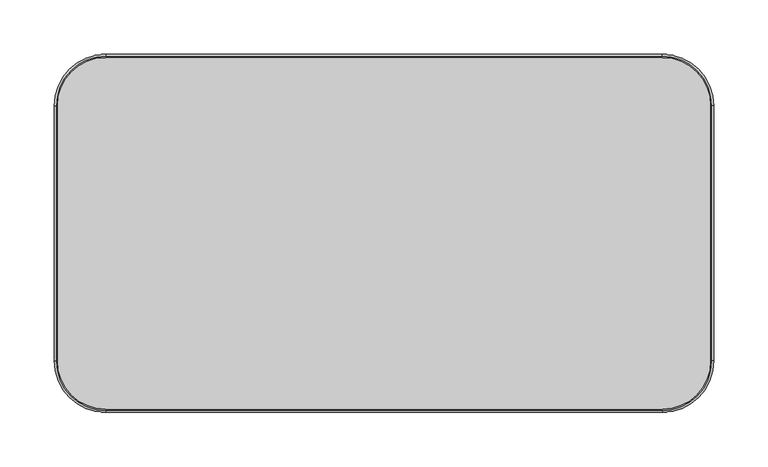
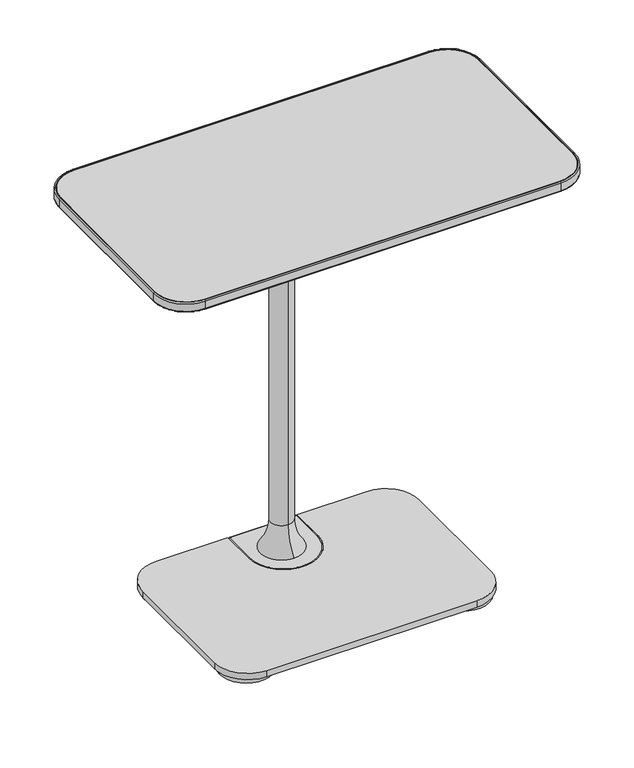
"""IFC4 building model written with IfcOpenShell, lengths in millimetres: furniture geometry, Coalesse_AM_Table_Occasional_Lagunitas_Personal : 13D x 24W."""

import ifcopenshell
import ifcopenshell.guid

model = None  # the IFC model being written
_history = None  # IfcOwnerHistory: only IFC2X3 demands one
_inside = {}  # id of a spatial element -> (the spatial element, [elements in it])
_under = {}  # id of a project, library or spatial element -> (it, [spatial elements below it])
_declared = {}  # id of a project -> (the project, [libraries it declares])
_typed = {}  # id of a type object -> (the type object, [elements of that type])
_made_of = {}  # id of a material, layer set ... -> (it, [elements and type objects made of it])


def new_model(schema):
    """Start an empty IFC model of exactly this schema.

    Asked for "IFC4X3", IfcOpenShell would pick the latest addendum, in which some entities
    have other attributes; the version numbers below select the first issue.
    IFC2X3 requires an IfcOwnerHistory on every rooted entity: one is made here for all.
    """
    global model, _history
    if schema == "IFC4X3":
        model = ifcopenshell.file(schema_version=(4, 3, 0, 0))
    else:
        model = ifcopenshell.file(schema=schema)
    _inside.clear()
    _under.clear()
    _declared.clear()
    _typed.clear()
    _made_of.clear()
    _history = None
    if model.schema == "IFC2X3":
        org = make("IfcOrganization", Name="unknown")
        user = make(
            "IfcPersonAndOrganization",
            ThePerson=make("IfcPerson", FamilyName="unknown"),
            TheOrganization=org,
        )
        app = make(
            "IfcApplication",
            ApplicationDeveloper=org,
            Version="unknown",
            ApplicationFullName="unknown",
            ApplicationIdentifier="unknown",
        )
        _history = make(
            "IfcOwnerHistory",
            OwningUser=user,
            OwningApplication=app,
            ChangeAction="ADDED",
            CreationDate=0,
        )
    return model


def make(cls, **values):
    """One entity of the class cls with the attributes given. An attribute that is None is left unset."""
    return model.create_entity(
        cls, **{name: value for name, value in values.items() if value is not None}
    )


def rooted(cls, **values):
    """An entity with a GlobalId (a new one), such as an element, a storey or a relation."""
    return make(cls, GlobalId=ifcopenshell.guid.new(), OwnerHistory=_history, **values)


def si_unit(unit_type, name, prefix=None):
    """IfcSIUnit, for example si_unit("LENGTHUNIT", "METRE", prefix="MILLI")."""
    return make("IfcSIUnit", UnitType=unit_type, Prefix=prefix, Name=name)


def assignment(units):
    """IfcUnitAssignment: the units of a project."""
    return None if units is None else make("IfcUnitAssignment", Units=units)


def point(xyz):
    """IfcCartesianPoint."""
    return None if xyz is None else make("IfcCartesianPoint", Coordinates=xyz)


def direction(xyz):
    """IfcDirection."""
    return None if xyz is None else make("IfcDirection", DirectionRatios=xyz)


def frame(location, z_axis=None, x_axis=None):
    """IfcAxis2Placement3D, a coordinate frame: its origin and axes. An axis left out is left unset."""
    return make(
        "IfcAxis2Placement3D",
        Location=point(location),
        Axis=direction(z_axis),
        RefDirection=direction(x_axis),
    )


def frame_2d(location, x_axis=None):
    """IfcAxis2Placement2D, a coordinate frame in the plane: its origin and x axis."""
    return make(
        "IfcAxis2Placement2D", Location=point(location), RefDirection=direction(x_axis)
    )


def origin():
    """The frame at (0, 0, 0) with its axes left unset."""
    return frame((0.0, 0.0, 0.0))


def origin_with_axes():
    """The frame at (0, 0, 0) with the z axis (0, 0, 1) and the x axis (1, 0, 0) written out."""
    return frame((0.0, 0.0, 0.0), z_axis=(0.0, 0.0, 1.0), x_axis=(1.0, 0.0, 0.0))


def place(relative_to, where):
    """IfcLocalPlacement: puts the frame where relative to a parent placement (None: the world)."""
    return make(
        "IfcLocalPlacement", PlacementRelTo=relative_to, RelativePlacement=where
    )


def context(
    kind, dimensions, precision=None, world=None, true_north=None, identifier=None
):
    """IfcGeometricRepresentationContext, for example the 3D "Model" context."""
    return make(
        "IfcGeometricRepresentationContext",
        ContextIdentifier=identifier,
        ContextType=kind,
        CoordinateSpaceDimension=dimensions,
        Precision=precision,
        WorldCoordinateSystem=world,
        TrueNorth=true_north,
    )


def project(units=None, contexts=None):
    """IfcProject with its units and contexts."""
    return rooted(
        "IfcProject",
        Name="project",
        RepresentationContexts=contexts,
        UnitsInContext=assignment(units),
    )


def spatial(cls, under=None, at=None, **own):
    """A site, building, storey or space (cls), placed at a placement, below another one or the project."""
    s = rooted(cls, ObjectPlacement=at, **own)
    if under is not None:
        _under.setdefault(under.id(), (under, []))[1].append(s)
    return s


def polyline(points):
    """IfcPolyline through the points."""
    return make("IfcPolyline", Points=[point(p) for p in points])


def circle_curve(where, radius):
    """IfcCircle in the frame where."""
    return make("IfcCircle", Position=where, Radius=radius)


def ellipse_curve(where, semi_axis1, semi_axis2):
    """IfcEllipse in the frame where."""
    return make(
        "IfcEllipse", Position=where, SemiAxis1=semi_axis1, SemiAxis2=semi_axis2
    )


def trimmed(basis, trim1, trim2, sense, master):
    """IfcTrimmedCurve: the piece of a basis curve between two trims."""
    return make(
        "IfcTrimmedCurve",
        BasisCurve=basis,
        Trim1=trim1,
        Trim2=trim2,
        SenseAgreement=sense,
        MasterRepresentation=master,
    )


def segment(curve, same_sense, transition):
    """IfcCompositeCurveSegment."""
    return make(
        "IfcCompositeCurveSegment",
        Transition=transition,
        SameSense=same_sense,
        ParentCurve=curve,
    )


def composite_curve(segments, self_intersect=None):
    """IfcCompositeCurve: segments joined end to end."""
    return make("IfcCompositeCurve", Segments=segments, SelfIntersect=self_intersect)


def outline(outer, holes=None, kind="AREA"):
    """IfcArbitraryClosedProfileDef: a profile drawn as a closed curve; with holes, ...WithVoids."""
    if holes is None:
        return make("IfcArbitraryClosedProfileDef", ProfileType=kind, OuterCurve=outer)
    return make(
        "IfcArbitraryProfileDefWithVoids",
        ProfileType=kind,
        OuterCurve=outer,
        InnerCurves=holes,
    )


def extrude(swept, where, along, depth):
    """IfcExtrudedAreaSolid: the profile swept, set in the frame where, extruded along a direction by depth."""
    return make(
        "IfcExtrudedAreaSolid",
        SweptArea=swept,
        Position=where,
        ExtrudedDirection=direction(along),
        Depth=depth,
    )


def shape(context_of_items, identifier, shape_type, items):
    """IfcShapeRepresentation: the items that make up one representation, for example the "Body"."""
    return make(
        "IfcShapeRepresentation",
        ContextOfItems=context_of_items,
        RepresentationIdentifier=identifier,
        RepresentationType=shape_type,
        Items=items,
    )


def source(mapping_origin, context_of_items, identifier, shape_type, items):
    """IfcRepresentationMap: a shape defined once, which mapped items show again and again."""
    return make(
        "IfcRepresentationMap",
        MappingOrigin=mapping_origin,
        MappedRepresentation=shape(context_of_items, identifier, shape_type, items),
    )


def transform(
    local_origin,
    x_axis=None,
    y_axis=None,
    z_axis=None,
    scale=None,
    scale2=None,
    scale3=None,
    uniform=True,
):
    """IfcCartesianTransformationOperator3D, or its non-uniform kind. x_axis, y_axis, z_axis: its Axis1, 2, 3."""
    if uniform:
        return make(
            "IfcCartesianTransformationOperator3D",
            Axis1=direction(x_axis),
            Axis2=direction(y_axis),
            LocalOrigin=point(local_origin),
            Scale=scale,
            Axis3=direction(z_axis),
        )
    return make(
        "IfcCartesianTransformationOperator3DnonUniform",
        Axis1=direction(x_axis),
        Axis2=direction(y_axis),
        LocalOrigin=point(local_origin),
        Scale=scale,
        Axis3=direction(z_axis),
        Scale2=scale2,
        Scale3=scale3,
    )


def mapped(mapping_source, mapping_target):
    """IfcMappedItem: shows the shape of a source again, moved by a transform."""
    return make(
        "IfcMappedItem", MappingSource=mapping_source, MappingTarget=mapping_target
    )


def made_of(thing, what):
    """Note that an element or type object is made of a material, layer set ...; save() writes the relation."""
    if what is not None:
        _made_of.setdefault(what.id(), (what, []))[1].append(thing)
    return thing


def element(
    cls,
    number,
    at=None,
    inside=None,
    cuts=None,
    type_object=None,
    material=None,
    context=None,
    identifier="Body",
    shape_type=None,
    held_by="IfcProductDefinitionShape",
    body=None,
    shapes=None,
    **own,
):
    """One element of the class cls, such as IfcWall. Its Tag is "e" and its number.

    at: its placement. inside: the storey or other place that contains it. cuts: it is an
    opening in that element (IfcRelVoidsElement). A single representation is given by context,
    identifier, shape_type and body (its items); several are given by shapes. held_by: the class
    of the entity that holds the representations. save() writes the other relations.
    """
    e = rooted(cls, Tag="e%d" % number, ObjectPlacement=at, **own)
    if body is not None:
        shapes = [shape(context, identifier, shape_type, body)]
    if shapes is not None:
        e.Representation = make(held_by, Representations=shapes)
    if inside is not None:
        _inside.setdefault(inside.id(), (inside, []))[1].append(e)
    if cuts is not None:
        rooted(
            "IfcRelVoidsElement", RelatingBuildingElement=cuts, RelatedOpeningElement=e
        )
    if type_object is not None:
        _typed.setdefault(type_object.id(), (type_object, []))[1].append(e)
    return made_of(e, material)


def aggregate(whole, parts):
    """IfcRelAggregates: a whole, such as a stair, and the parts it consists of."""
    return rooted("IfcRelAggregates", RelatingObject=whole, RelatedObjects=parts)


def save(model, path):
    """Write the relations noted so far, then the file.

    IfcRelAggregates (storeys below a building ...), IfcRelContainedInSpatialStructure (elements
    in a storey), IfcRelDefinesByType, IfcRelAssociatesMaterial and IfcRelDeclares: one each for
    every whole, place, type object, material and project.
    """
    for whole, parts in _under.values():
        aggregate(whole, parts)
    for where, things in _inside.values():
        rooted(
            "IfcRelContainedInSpatialStructure",
            RelatedElements=things,
            RelatingStructure=where,
        )
    for kind, things in _typed.values():
        rooted("IfcRelDefinesByType", RelatedObjects=things, RelatingType=kind)
    for what, things in _made_of.values():
        rooted("IfcRelAssociatesMaterial", RelatedObjects=things, RelatingMaterial=what)
    for by, libraries in _declared.values():
        rooted("IfcRelDeclares", RelatingContext=by, RelatedDefinitions=libraries)
    model.write(path)


def plane_surface(at):
    """IfcPlane: the flat surface through the origin of the frame at, square to its z axis."""
    return make("IfcPlane", Position=at)


def cylinder_surface(at, radius):
    """IfcCylindricalSurface: all points at the distance radius from the z axis of the frame at."""
    return make("IfcCylindricalSurface", Position=at, Radius=radius)


def revolved_surface(curve, axis_point, axis_direction):
    """IfcSurfaceOfRevolution: the curve turned about the line through axis_point along axis_direction."""
    return make(
        "IfcSurfaceOfRevolution",
        SweptCurve=make("IfcArbitraryOpenProfileDef", ProfileType="CURVE", Curve=curve),
        AxisPosition=make("IfcAxis1Placement", Location=point(axis_point), Axis=direction(axis_direction)),
    )


def advanced_brep(points, edges, surfaces, faces):
    """IfcAdvancedBrep: a solid bounded by faces that lie on surfaces and meet in shared edges.

    An edge is (start, end): straight between two places in points (the first is 0);
    or (start, end, curve); or (start, end, curve, False) where it runs against its curve.
    A face is (place in surfaces, loops), or (place, loops, False) where it looks against
    its surface's normal. A loop lists edges by number (the first is 1), with a minus sign
    where the edge is run from its end to its start. The first loop is the outer one.
    """
    corners = [point(p) for p in points]
    vertices = [make("IfcVertexPoint", VertexGeometry=c) for c in corners]
    made = []
    for start, end, *more in edges:
        made.append(
            make(
                "IfcEdgeCurve",
                EdgeStart=vertices[start],
                EdgeEnd=vertices[end],
                EdgeGeometry=more[0] if more else make("IfcPolyline", Points=[corners[start], corners[end]]),
                SameSense=more[1] if len(more) > 1 else True,
            )
        )
    hull = []
    for where, loops, *sense in faces:
        bounds = []
        for j, loop in enumerate(loops):
            ring = [make("IfcOrientedEdge", EdgeElement=made[abs(k) - 1], Orientation=k > 0) for k in loop]
            bounds.append(
                make(
                    "IfcFaceOuterBound" if j == 0 else "IfcFaceBound",
                    Bound=make("IfcEdgeLoop", EdgeList=ring),
                    Orientation=True,
                )
            )
        hull.append(make("IfcAdvancedFace", Bounds=bounds, FaceSurface=surfaces[where], SameSense=sense[0] if sense else True))
    return make("IfcAdvancedBrep", Outer=make("IfcClosedShell", CfsFaces=hull))


def furniture_d2e51079(model_context):
    return source(origin(), model_context, "Body", "SolidModel", [
        advanced_brep(
        [(-48.435586, 86.197599, 15.3754683), (51.6565428, 86.197599, 15.3754683), (50.1397432, 86.197599, 16.8922679), (-46.9187865, 86.197599, 16.8922679), (-48.435586, 86.197599, 7.5129953), (51.6565428, 86.197599, 7.5129953), (-46.9187865, 135.1065525, 16.8922679), (-48.435586, 135.1065525, 15.3754683), (-48.435586, 135.1065525, 7.5129953), (-44.9985216, 138.543617, 15.3754683), (-44.9985216, 137.0268174, 16.8922679), (48.2194784, 137.0268174, 16.8922679), (48.2194784, 138.543617, 15.3754683), (48.2194784, 138.543617, 7.5129953), (-44.9985216, 138.543617, 7.5129953), (51.6565428, 135.1065525, 15.3754683), (50.1397432, 135.1065525, 16.8922679), (51.6565428, 135.1065525, 7.5129953)],
        [
            (0, 1, circle_curve(frame((1.6104784, 86.197599, 15.3754683), z_axis=(0.0, 0.0, 1.0), x_axis=(1.0, 0.0, 0.0)), 50.0460644)),
            (1, 2, circle_curve(frame((50.1397432, 86.197599, 15.3754683), z_axis=(0.0, -1.0, 0.0), x_axis=(1.0, 0.0, 0.0)), 1.5167996)),
            (2, 3, circle_curve(frame((1.6104784, 86.197599, 16.8922679), z_axis=(0.0, 0.0, -1.0), x_axis=(1.0, 0.0, 0.0)), 48.5292649)),
            (3, 0, circle_curve(frame((-46.9187865, 86.197599, 15.3754683), z_axis=(0.0, -1.0, 0.0), x_axis=(-1.0, 0.0, 0.0)), 1.5167996)),
            (0, 4),
            (4, 5, circle_curve(frame((1.6104784, 86.197599, 7.5129953), z_axis=(0.0, 0.0, 1.0), x_axis=(1.0, 0.0, 0.0)), 50.0460644)),
            (5, 1),
            (3, 6),
            (6, 7, circle_curve(frame((-46.9187865, 135.1065525, 15.3754683), z_axis=(0.0, -1.0, 0.0), x_axis=(-1.0, 0.0, 0.0)), 1.5167996)),
            (7, 0),
            (7, 8),
            (8, 4),
            (9, 10, circle_curve(frame((-44.9985216, 137.0268174, 15.3754683), z_axis=(1.0, 0.0, 0.0), x_axis=(0.0, 1.0, 0.0)), 1.5167996)),
            (10, 11),
            (11, 12, circle_curve(frame((48.2194784, 137.0268174, 15.3754683), z_axis=(-1.0, 0.0, 0.0), x_axis=(0.0, 1.0, 0.0)), 1.5167996)),
            (12, 9),
            (12, 13),
            (13, 14),
            (14, 9),
            (1, 15),
            (15, 16, circle_curve(frame((50.1397432, 135.1065525, 15.3754683), z_axis=(0.0, -1.0, 0.0), x_axis=(1.0, 0.0, 0.0)), 1.5167996)),
            (16, 2),
            (5, 17),
            (17, 15),
            (6, 10, circle_curve(frame((-44.9985216, 135.1065525, 16.8922679), z_axis=(0.0, 0.0, -1.0), x_axis=(-1.0, 0.0, 0.0)), 1.9202649)),
            (9, 7, circle_curve(frame((-44.9985216, 135.1065525, 15.3754683), z_axis=(0.0, 0.0, 1.0), x_axis=(-1.0, 0.0, 0.0)), 3.4370644)),
            (14, 8, circle_curve(frame((-44.9985216, 135.1065525, 7.5129953), z_axis=(0.0, 0.0, 1.0), x_axis=(-1.0, 0.0, 0.0)), 3.4370644)),
            (16, 11, circle_curve(frame((48.2194784, 135.1065525, 16.8922679), z_axis=(0.0, 0.0, 1.0), x_axis=(0.0, 1.0, 0.0)), 1.9202649)),
            (15, 12, circle_curve(frame((48.2194784, 135.1065525, 15.3754683), z_axis=(0.0, 0.0, 1.0), x_axis=(0.0, 1.0, 0.0)), 3.4370644)),
            (17, 13, circle_curve(frame((48.2194784, 135.1065525, 7.5129953), z_axis=(0.0, 0.0, 1.0), x_axis=(0.0, 1.0, 0.0)), 3.4370644)),
        ],
        [
            revolved_surface(trimmed(ellipse_curve(frame((50.1397432, 86.197599, 15.3754683), z_axis=(0.0, 1.0, 0.0), x_axis=(1.0, 0.0, 0.0)), 1.5167996, 1.5167996), [point((50.1397432, 86.197599, 16.8922679))], [point((51.6565428, 86.197599, 15.3754683))], True, "CARTESIAN"), (1.6104784, 86.197599, 16.8922679), (0.0, 0.0, -1.0)),
            cylinder_surface(frame((1.6104784, 86.197599, 16.8922679), z_axis=(0.0, 0.0, -1.0), x_axis=(1.0, 0.0, 0.0)), 50.0460644),
            cylinder_surface(frame((-46.9187865, 86.197599, 15.3754683), z_axis=(0.0, -1.0, 0.0), x_axis=(-1.0, 0.0, 0.0)), 1.5167996),
            plane_surface(frame((-48.435586, 86.197599, 15.3754683), z_axis=(-1.0, 0.0, 0.0), x_axis=(0.0, 1.0, 0.0))),
            cylinder_surface(frame((-44.9985216, 137.0268174, 15.3754683), z_axis=(-1.0, 0.0, 0.0), x_axis=(0.0, 1.0, 0.0)), 1.5167996),
            plane_surface(frame((-44.9985216, 138.543617, 15.3754683), z_axis=(0.0, 1.0, 0.0), x_axis=(1.0, 0.0, 0.0))),
            cylinder_surface(frame((50.1397432, 135.1065525, 15.3754683), z_axis=(0.0, 1.0, 0.0), x_axis=(1.0, 0.0, 0.0)), 1.5167996),
            plane_surface(frame((51.6565428, 135.1065525, 15.3754683), z_axis=(1.0, 0.0, 0.0), x_axis=(0.0, -1.0, 0.0))),
            revolved_surface(trimmed(ellipse_curve(frame((-46.9187865, 135.1065525, 15.3754683), z_axis=(0.0, -1.0, 0.0), x_axis=(-1.0, 0.0, 0.0)), 1.5167996, 1.5167996), [point((-46.9187865, 135.1065525, 16.8922679))], [point((-48.435586, 135.1065525, 15.3754683))], True, "CARTESIAN"), (-44.9985216, 135.1065525, 16.8922679), (0.0, 0.0, -1.0)),
            cylinder_surface(frame((-44.9985216, 135.1065525, 16.8922679), z_axis=(0.0, 0.0, -1.0), x_axis=(-1.0, 0.0, 0.0)), 3.4370644),
            plane_surface(frame((48.2194784, 135.1065525, 16.8922679), z_axis=(0.0, 0.0, 1.0), x_axis=(0.0, 1.0, 0.0))),
            revolved_surface(trimmed(ellipse_curve(frame((48.2194784, 137.0268174, 15.3754683), z_axis=(-1.0, 0.0, 0.0), x_axis=(0.0, 1.0, 0.0)), 1.5167996, 1.5167996), [point((48.2194784, 137.0268174, 16.8922679))], [point((48.2194784, 138.543617, 15.3754683))], True, "CARTESIAN"), (48.2194784, 135.1065525, 16.8922679), (0.0, 0.0, -1.0)),
            cylinder_surface(frame((48.2194784, 135.1065525, 16.8922679), z_axis=(0.0, 0.0, -1.0), x_axis=(0.0, 1.0, 0.0)), 3.4370644),
            plane_surface(frame((48.2194784, 135.1065525, 7.5129953), z_axis=(0.0, 0.0, -1.0), x_axis=(0.0, 1.0, 0.0))),
        ],
        [
            (0, [[1, 2, 3, 4]]),
            (1, [[-1, 5, 6, 7]]),
            (2, [[-4, 8, 9, 10]]),
            (3, [[-5, -10, 11, 12]]),
            (4, [[13, 14, 15, 16]]),
            (5, [[-16, 17, 18, 19]]),
            (6, [[-2, 20, 21, 22]]),
            (7, [[-7, 23, 24, -20]]),
            (8, [[-9, 25, -13, 26]]),
            (9, [[-11, -26, -19, 27]]),
            (10, [[-3, -22, 28, -14, -25, -8]]),
            (11, [[-15, -28, -21, 29]]),
            (12, [[-17, -29, -24, 30]]),
            (13, [[-6, -12, -27, -18, -30, -23]]),
        ],
    ),
        advanced_brep(
        [(0.3050059, 104.0506461, 613.6754053), (0.3050059, 104.0506461, 59.1225811), (0.3050059, 72.1983752, 59.1225811), (0.3050059, 72.1983752, 613.6754053), (0.3050059, 57.1200218, 16.8922679), (0.3050059, 119.1289995, 16.8922679), (0.3050059, 88.1245106, 16.8922679), (130.6684254, 113.5493395, 620.8077946), (-128.4115261, 113.5493395, 620.8077946), (-138.5715261, 103.3893395, 620.8077946), (-138.5715261, -28.6906605, 620.8077946), (-128.4115261, -38.8506605, 620.8077946), (130.6684254, -38.8506605, 620.8077946), (140.8284254, -28.6906605, 620.8077946), (140.8284254, 103.3893395, 620.8077946), (130.6684254, 113.5493395, 613.6754053), (140.8284254, 103.3893395, 613.6754053), (140.8284254, -28.6906605, 613.6754053), (130.6684254, -38.8506605, 613.6754053), (-128.4115261, -38.8506605, 613.6754053), (-138.5715261, -28.6906605, 613.6754053), (-138.5715261, 103.3893395, 613.6754053), (-128.4115261, 113.5493395, 613.6754053)],
        [
            (0, 1),
            (1, 2, circle_curve(frame((0.3050059, 88.1245106, 59.1225811), z_axis=(0.0, 0.0, 1.0), x_axis=(0.0, 1.0, 0.0)), 15.9261354)),
            (2, 3),
            (3, 0, circle_curve(frame((0.3050059, 88.1245106, 613.6754053), z_axis=(0.0, 0.0, -1.0), x_axis=(0.0, 1.0, 0.0)), 15.9261354)),
            (0, 3, circle_curve(frame((0.3050059, 88.1245106, 613.6754053), z_axis=(0.0, 0.0, -1.0), x_axis=(0.0, 1.0, 0.0)), 15.9261354)),
            (2, 1, circle_curve(frame((0.3050059, 88.1245106, 59.1225811), z_axis=(0.0, 0.0, 1.0), x_axis=(0.0, 1.0, 0.0)), 15.9261354)),
            (4, 5, circle_curve(frame((0.3050059, 88.1245106, 16.8922679), z_axis=(0.0, 0.0, -1.0), x_axis=(0.0, 1.0, 0.0)), 31.0044888)),
            (5, 6),
            (6, 4),
            (5, 4, circle_curve(frame((0.3050059, 88.1245106, 16.8922679), z_axis=(0.0, 0.0, -1.0), x_axis=(0.0, 1.0, 0.0)), 31.0044888)),
            (1, 5, circle_curve(frame((0.3050059, 170.7275585, 59.1225811), z_axis=(1.0, 0.0, 0.0), x_axis=(0.0, 1.0, 0.0)), 66.6769124)),
            (4, 2, circle_curve(frame((0.3050059, 5.5214628, 59.1225811), z_axis=(1.0, 0.0, 0.0), x_axis=(0.0, -1.0, 0.0)), 66.6769124)),
            (7, 8),
            (8, 9, circle_curve(frame((-128.4115261, 103.3893395, 620.8077946), z_axis=(0.0, 0.0, 1.0), x_axis=(1.0, 0.0, 0.0)), 10.16)),
            (9, 10),
            (10, 11, circle_curve(frame((-128.4115261, -28.6906605, 620.8077946), z_axis=(0.0, 0.0, 1.0), x_axis=(1.0, 0.0, 0.0)), 10.16)),
            (11, 12),
            (12, 13, circle_curve(frame((130.6684254, -28.6906605, 620.8077946), z_axis=(0.0, 0.0, 1.0), x_axis=(1.0, 0.0, 0.0)), 10.16)),
            (13, 14),
            (14, 7, circle_curve(frame((130.6684254, 103.3893395, 620.8077946), z_axis=(0.0, 0.0, 1.0), x_axis=(1.0, 0.0, 0.0)), 10.16)),
            (15, 16, circle_curve(frame((130.6684254, 103.3893395, 613.6754053), z_axis=(0.0, 0.0, -1.0), x_axis=(1.0, 0.0, 0.0)), 10.16)),
            (16, 17),
            (17, 18, circle_curve(frame((130.6684254, -28.6906605, 613.6754053), z_axis=(0.0, 0.0, -1.0), x_axis=(1.0, 0.0, 0.0)), 10.16)),
            (18, 19),
            (19, 20, circle_curve(frame((-128.4115261, -28.6906605, 613.6754053), z_axis=(0.0, 0.0, -1.0), x_axis=(1.0, 0.0, 0.0)), 10.16)),
            (20, 21),
            (21, 22, circle_curve(frame((-128.4115261, 103.3893395, 613.6754053), z_axis=(0.0, 0.0, -1.0), x_axis=(1.0, 0.0, 0.0)), 10.16)),
            (22, 15),
            (7, 15),
            (22, 8),
            (21, 9),
            (20, 10),
            (19, 11),
            (18, 12),
            (17, 13),
            (16, 14),
        ],
        [
            cylinder_surface(frame((0.3050059, 88.1245106, 738.9341599), z_axis=(0.0, 0.0, 1.0), x_axis=(0.0, 1.0, 0.0)), 15.9261354),
            plane_surface(frame((0.3050059, 88.1245106, 16.8922679), z_axis=(0.0, 0.0, -1.0), x_axis=(0.0, 1.0, 0.0))),
            revolved_surface(trimmed(ellipse_curve(frame((0.3050059, 170.7275585, 59.1225811), z_axis=(-1.0, 0.0, 0.0), x_axis=(0.0, 1.0, 0.0)), 66.6769124, 66.6769124), [point((0.3050059, 119.1289995, 16.8922679))], [point((0.3050059, 104.0506461, 59.1225811))], True, "CARTESIAN"), (0.3050059, 88.1245106, 738.9341599), (0.0, 0.0, 1.0)),
            plane_surface(frame((-138.5715261, 113.5493395, 620.8077946), z_axis=(0.0, 0.0, 1.0), x_axis=(-1.0, 0.0, 0.0))),
            plane_surface(frame((-138.5715261, 113.5493395, 613.6754053), z_axis=(0.0, 0.0, -1.0), x_axis=(1.0, 0.0, 0.0))),
            plane_surface(frame((130.6684254, 113.5493395, 620.8077946), z_axis=(0.0, 1.0, 0.0), x_axis=(0.0, 0.0, -1.0))),
            cylinder_surface(frame((-128.4115261, 103.3893395, 613.6754053), z_axis=(0.0, 0.0, 1.0), x_axis=(1.0, 0.0, 0.0)), 10.16),
            plane_surface(frame((-138.5715261, 103.3893395, 620.8077946), z_axis=(-1.0, 0.0, 0.0), x_axis=(0.0, 0.0, -1.0))),
            cylinder_surface(frame((-128.4115261, -28.6906605, 613.6754053), z_axis=(0.0, 0.0, 1.0), x_axis=(1.0, 0.0, 0.0)), 10.16),
            plane_surface(frame((-128.4115261, -38.8506605, 620.8077946), z_axis=(0.0, -1.0, 0.0), x_axis=(0.0, 0.0, -1.0))),
            cylinder_surface(frame((130.6684254, -28.6906605, 613.6754053), z_axis=(0.0, 0.0, 1.0), x_axis=(1.0, 0.0, 0.0)), 10.16),
            plane_surface(frame((140.8284254, -28.6906605, 620.8077946), z_axis=(1.0, 0.0, 0.0), x_axis=(0.0, 0.0, -1.0))),
            cylinder_surface(frame((130.6684254, 103.3893395, 613.6754053), z_axis=(0.0, 0.0, 1.0), x_axis=(1.0, 0.0, 0.0)), 10.16),
        ],
        [
            (0, [[1, 2, 3, 4]]),
            (0, [[-1, 5, -3, 6]]),
            (1, [[7, 8, 9]]),
            (1, [[-8, 10, -9]]),
            (2, [[-2, 11, -7, 12]]),
            (2, [[-6, -12, -10, -11]]),
            (3, [[13, 14, 15, 16, 17, 18, 19, 20]]),
            (4, [[21, 22, 23, 24, 25, 26, 27, 28], [-4, -5]]),
            (5, [[-13, 29, -28, 30]]),
            (6, [[-14, -30, -27, 31]]),
            (7, [[-15, -31, -26, 32]]),
            (8, [[-16, -32, -25, 33]]),
            (9, [[-17, -33, -24, 34]]),
            (10, [[-18, -34, -23, 35]]),
            (11, [[-19, -35, -22, 36]]),
            (12, [[-20, -36, -21, -29]]),
        ],
    ),
        advanced_brep(
        [(-48.435586, 138.1507449, 16.8922679), (-151.226713, 138.1507449, 16.8922679), (-198.851713, 90.5257449, 16.8922679), (-198.851713, -89.2299982, 16.8922679), (-151.226713, -136.8549982, 16.8922679), (151.8367247, -136.8549982, 16.8922679), (199.4617247, -89.2299982, 16.8922679), (199.4617247, 90.5257449, 16.8922679), (151.8367247, 138.1507449, 16.8922679), (51.6565428, 138.1507449, 16.8922679), (51.6565428, 86.197599, 16.8922679), (-48.435586, 86.197599, 16.8922679), (-48.435586, 138.1507449, 7.5129953), (-48.435586, 86.197599, 7.5129953), (51.6565428, 86.197599, 7.5129953), (51.6565428, 138.1507449, 7.5129953), (151.8367247, 138.1507449, 7.5129953), (199.4617247, 90.5257449, 7.5129953), (199.4617247, -89.2299982, 7.5129953), (151.8367247, -136.8549982, 7.5129953), (-151.226713, -136.8549982, 7.5129953), (-198.851713, -89.2299982, 7.5129953), (-198.851713, 90.5257449, 7.5129953), (-151.226713, 138.1507449, 7.5129953)],
        [
            (0, 1),
            (1, 2, circle_curve(frame((-151.226713, 90.5257449, 16.8922679), z_axis=(0.0, 0.0, 1.0), x_axis=(1.0, 0.0, 0.0)), 47.625)),
            (2, 3),
            (3, 4, circle_curve(frame((-151.226713, -89.2299982, 16.8922679), z_axis=(0.0, 0.0, 1.0), x_axis=(1.0, 0.0, 0.0)), 47.625)),
            (4, 5),
            (5, 6, circle_curve(frame((151.8367247, -89.2299982, 16.8922679), z_axis=(0.0, 0.0, 1.0), x_axis=(1.0, 0.0, 0.0)), 47.625)),
            (6, 7),
            (7, 8, circle_curve(frame((151.8367247, 90.5257449, 16.8922679), z_axis=(0.0, 0.0, 1.0), x_axis=(1.0, 0.0, 0.0)), 47.625)),
            (8, 9),
            (9, 10),
            (10, 11, circle_curve(frame((1.6104784, 86.197599, 16.8922679), z_axis=(0.0, 0.0, -1.0), x_axis=(1.0, 0.0, 0.0)), 50.0460644)),
            (11, 0),
            (12, 13),
            (13, 14, circle_curve(frame((1.6104784, 86.197599, 7.5129953), z_axis=(0.0, 0.0, 1.0), x_axis=(1.0, 0.0, 0.0)), 50.0460644)),
            (14, 15),
            (15, 16),
            (16, 17, circle_curve(frame((151.8367247, 90.5257449, 7.5129953), z_axis=(0.0, 0.0, -1.0), x_axis=(1.0, 0.0, 0.0)), 47.625)),
            (17, 18),
            (18, 19, circle_curve(frame((151.8367247, -89.2299982, 7.5129953), z_axis=(0.0, 0.0, -1.0), x_axis=(1.0, 0.0, 0.0)), 47.625)),
            (19, 20),
            (20, 21, circle_curve(frame((-151.226713, -89.2299982, 7.5129953), z_axis=(0.0, 0.0, -1.0), x_axis=(1.0, 0.0, 0.0)), 47.625)),
            (21, 22),
            (22, 23, circle_curve(frame((-151.226713, 90.5257449, 7.5129953), z_axis=(0.0, 0.0, -1.0), x_axis=(1.0, 0.0, 0.0)), 47.625)),
            (23, 12),
            (0, 12),
            (23, 1),
            (22, 2),
            (21, 3),
            (20, 4),
            (19, 5),
            (18, 6),
            (17, 7),
            (16, 8),
            (15, 9),
            (14, 10),
            (13, 11),
        ],
        [
            plane_surface(frame((-151.226713, 138.1507449, 16.8922679), z_axis=(0.0, 0.0, 1.0), x_axis=(-1.0, 0.0, 0.0))),
            plane_surface(frame((-151.226713, 138.1507449, 7.5129953), z_axis=(0.0, 0.0, -1.0), x_axis=(1.0, 0.0, 0.0))),
            plane_surface(frame((-48.435586, 138.1507449, 16.8922679), z_axis=(0.0, 1.0, 0.0), x_axis=(0.0, 0.0, -1.0))),
            cylinder_surface(frame((-151.226713, 90.5257449, 7.5129953), z_axis=(0.0, 0.0, 1.0), x_axis=(1.0, 0.0, 0.0)), 47.625),
            plane_surface(frame((-198.851713, 90.5257449, 16.8922679), z_axis=(-1.0, 0.0, 0.0), x_axis=(0.0, 0.0, -1.0))),
            cylinder_surface(frame((-151.226713, -89.2299982, 7.5129953), z_axis=(0.0, 0.0, 1.0), x_axis=(1.0, 0.0, 0.0)), 47.625),
            plane_surface(frame((-151.226713, -136.8549982, 16.8922679), z_axis=(0.0, -1.0, 0.0), x_axis=(0.0, 0.0, -1.0))),
            cylinder_surface(frame((151.8367247, -89.2299982, 7.5129953), z_axis=(0.0, 0.0, 1.0), x_axis=(1.0, 0.0, 0.0)), 47.625),
            plane_surface(frame((199.4617247, -89.2299982, 16.8922679), z_axis=(1.0, 0.0, 0.0), x_axis=(0.0, 0.0, -1.0))),
            cylinder_surface(frame((151.8367247, 90.5257449, 7.5129953), z_axis=(0.0, 0.0, 1.0), x_axis=(1.0, 0.0, 0.0)), 47.625),
            plane_surface(frame((151.8367247, 138.1507449, 16.8922679), z_axis=(0.0, 1.0, 0.0), x_axis=(0.0, 0.0, -1.0))),
            plane_surface(frame((51.6565428, 138.1507449, 16.8922679), z_axis=(-1.0, 0.0, 0.0), x_axis=(0.0, 0.0, -1.0))),
            revolved_surface(polyline([(51.6565428, 86.197599, 7.5129953), (51.6565428, 86.197599, 16.8922679)]), (1.6104784, 86.197599, 7.5129953), (0.0, 0.0, -1.0)),
            plane_surface(frame((-48.435586, 86.197599, 16.8922679), z_axis=(1.0, 0.0, 0.0), x_axis=(0.0, 0.0, -1.0))),
        ],
        [
            (0, [[1, 2, 3, 4, 5, 6, 7, 8, 9, 10, 11, 12]]),
            (1, [[13, 14, 15, 16, 17, 18, 19, 20, 21, 22, 23, 24]]),
            (2, [[-1, 25, -24, 26]]),
            (3, [[-2, -26, -23, 27]]),
            (4, [[-3, -27, -22, 28]]),
            (5, [[-4, -28, -21, 29]]),
            (6, [[-5, -29, -20, 30]]),
            (7, [[-6, -30, -19, 31]]),
            (8, [[-7, -31, -18, 32]]),
            (9, [[-8, -32, -17, 33]]),
            (10, [[-9, -33, -16, 34]]),
            (11, [[-10, -34, -15, 35]]),
            (12, [[-11, -35, -14, 36]]),
            (13, [[-12, -36, -13, -25]]),
        ],
    ),
        advanced_brep(
        [(-303.6671081, 117.6038988, 633.3581839), (-256.1710069, 165.1, 633.3581839), (-256.1710069, 165.1, 622.5894697), (-303.6671081, 117.6038988, 622.5894697), (-300.6210069, 117.6038988, 620.8077946), (-256.1710069, 162.0538988, 620.8077946), (-256.1710069, 162.0538988, 635.031781), (-300.6210069, 117.6038988, 635.031781), (-303.6671081, -117.6038988, 622.5894697), (-303.6671081, -117.6038988, 633.3581839), (-300.6210069, -117.6038988, 635.031781), (-300.6210069, -117.6038988, 620.8077946), (-256.1710069, -165.1, 633.3581839), (-256.1710069, -165.1, 622.5894697), (-256.1710069, -162.0538988, 620.8077946), (-256.1710069, -162.0538988, 635.031781), (256.7810186, -165.1, 622.5894697), (256.7810186, -165.1, 633.3581839), (256.7810186, -162.0538988, 635.031781), (256.7810186, -162.0538988, 620.8077946), (304.2771199, -117.6038988, 633.3581839), (304.2771199, -117.6038988, 622.5894697), (301.2310186, -117.6038988, 620.8077946), (301.2310186, -117.6038988, 635.031781), (304.2771199, 117.6038988, 622.5894697), (304.2771199, 117.6038988, 633.3581839), (301.2310186, 117.6038988, 635.031781), (301.2310186, 117.6038988, 620.8077946), (256.7810186, 165.1, 633.3581839), (256.7810186, 165.1, 622.5894697), (256.7810186, 162.0538988, 620.8077946), (256.7810186, 162.0538988, 635.031781), (-256.1710069, 163.3183249, 620.8077946), (-301.885433, 117.6038988, 620.8077946), (-301.9935111, 117.6038988, 635.031781), (-256.1710069, 163.4264029, 635.031781), (-301.885433, -117.6038988, 620.8077946), (-301.9935111, -117.6038988, 635.031781), (-256.1710069, -163.3183249, 620.8077946), (-256.1710069, -163.4264029, 635.031781), (256.7810186, -163.3183249, 620.8077946), (256.7810186, -163.4264029, 635.031781), (302.4954448, -117.6038988, 620.8077946), (302.6035228, -117.6038988, 635.031781), (302.4954448, 117.6038988, 620.8077946), (302.6035228, 117.6038988, 635.031781), (256.7810186, 163.3183249, 620.8077946), (256.7810186, 163.4264029, 635.031781)],
        [
            (0, 1, circle_curve(frame((-256.1710069, 117.6038988, 633.3581839), z_axis=(0.0, 0.0, -1.0), x_axis=(0.0, 1.0, 0.0)), 47.4961012)),
            (1, 2),
            (2, 3, circle_curve(frame((-256.1710069, 117.6038988, 622.5894697), z_axis=(0.0, 0.0, 1.0), x_axis=(0.0, 1.0, 0.0)), 47.4961012)),
            (3, 0),
            (4, 5, circle_curve(frame((-256.1710069, 117.6038988, 620.8077946), z_axis=(0.0, 0.0, -1.0), x_axis=(0.0, 1.0, 0.0)), 44.45)),
            (5, 6),
            (6, 7, circle_curve(frame((-256.1710069, 117.6038988, 635.031781), z_axis=(0.0, 0.0, 1.0), x_axis=(0.0, 1.0, 0.0)), 44.45)),
            (7, 4),
            (3, 8),
            (8, 9),
            (9, 0),
            (7, 10),
            (10, 11),
            (11, 4),
            (12, 9, circle_curve(frame((-256.1710069, -117.6038988, 633.3581839), z_axis=(0.0, 0.0, -1.0), x_axis=(-1.0, 0.0, 0.0)), 47.4961012)),
            (8, 13, circle_curve(frame((-256.1710069, -117.6038988, 622.5894697), z_axis=(0.0, 0.0, 1.0), x_axis=(-1.0, 0.0, 0.0)), 47.4961012)),
            (13, 12),
            (14, 11, circle_curve(frame((-256.1710069, -117.6038988, 620.8077946), z_axis=(0.0, 0.0, -1.0), x_axis=(-1.0, 0.0, 0.0)), 44.45)),
            (10, 15, circle_curve(frame((-256.1710069, -117.6038988, 635.031781), z_axis=(0.0, 0.0, 1.0), x_axis=(-1.0, 0.0, 0.0)), 44.45)),
            (15, 14),
            (13, 16),
            (16, 17),
            (17, 12),
            (15, 18),
            (18, 19),
            (19, 14),
            (20, 17, circle_curve(frame((256.7810186, -117.6038988, 633.3581839), z_axis=(0.0, 0.0, -1.0), x_axis=(0.0, -1.0, 0.0)), 47.4961012)),
            (16, 21, circle_curve(frame((256.7810186, -117.6038988, 622.5894697), z_axis=(0.0, 0.0, 1.0), x_axis=(0.0, -1.0, 0.0)), 47.4961012)),
            (21, 20),
            (22, 19, circle_curve(frame((256.7810186, -117.6038988, 620.8077946), z_axis=(0.0, 0.0, -1.0), x_axis=(0.0, -1.0, 0.0)), 44.45)),
            (18, 23, circle_curve(frame((256.7810186, -117.6038988, 635.031781), z_axis=(0.0, 0.0, 1.0), x_axis=(0.0, -1.0, 0.0)), 44.45)),
            (23, 22),
            (21, 24),
            (24, 25),
            (25, 20),
            (23, 26),
            (26, 27),
            (27, 22),
            (28, 25, circle_curve(frame((256.7810186, 117.6038988, 633.3581839), z_axis=(0.0, 0.0, -1.0), x_axis=(1.0, 0.0, 0.0)), 47.4961012)),
            (24, 29, circle_curve(frame((256.7810186, 117.6038988, 622.5894697), z_axis=(0.0, 0.0, 1.0), x_axis=(1.0, 0.0, 0.0)), 47.4961012)),
            (29, 28),
            (30, 27, circle_curve(frame((256.7810186, 117.6038988, 620.8077946), z_axis=(0.0, 0.0, -1.0), x_axis=(1.0, 0.0, 0.0)), 44.45)),
            (26, 31, circle_curve(frame((256.7810186, 117.6038988, 635.031781), z_axis=(0.0, 0.0, 1.0), x_axis=(1.0, 0.0, 0.0)), 44.45)),
            (31, 30),
            (29, 2),
            (1, 28),
            (31, 6),
            (5, 30),
            (2, 32, circle_curve(frame((-256.1710069, 163.3183249, 622.5894697), z_axis=(-1.0, 0.0, 0.0), x_axis=(0.0, -1.0, 0.0)), 1.7816751)),
            (32, 33, circle_curve(frame((-256.1710069, 117.6038988, 620.8077946), z_axis=(0.0, 0.0, 1.0), x_axis=(0.0, 1.0, 0.0)), 45.7144261)),
            (33, 3, circle_curve(frame((-301.885433, 117.6038988, 622.5894697), z_axis=(0.0, 1.0, 0.0), x_axis=(1.0, 0.0, 0.0)), 1.7816751)),
            (34, 35, circle_curve(frame((-256.1710069, 117.6038988, 635.031781), z_axis=(0.0, 0.0, -1.0), x_axis=(0.0, 1.0, 0.0)), 45.8225042)),
            (35, 1, circle_curve(frame((-256.1710069, 163.4264029, 633.3581839), z_axis=(-1.0, 0.0, 0.0), x_axis=(0.0, -1.0, 0.0)), 1.6735971)),
            (0, 34, circle_curve(frame((-301.9935111, 117.6038988, 633.3581839), z_axis=(0.0, 1.0, 0.0), x_axis=(1.0, 0.0, 0.0)), 1.6735971)),
            (33, 36),
            (36, 8, circle_curve(frame((-301.885433, -117.6038988, 622.5894697), z_axis=(0.0, 1.0, 0.0), x_axis=(1.0, 0.0, 0.0)), 1.7816751)),
            (9, 37, circle_curve(frame((-301.9935111, -117.6038988, 633.3581839), z_axis=(0.0, 1.0, 0.0), x_axis=(1.0, 0.0, 0.0)), 1.6735971)),
            (37, 34),
            (36, 38, circle_curve(frame((-256.1710069, -117.6038988, 620.8077946), z_axis=(0.0, 0.0, 1.0), x_axis=(-1.0, 0.0, 0.0)), 45.7144261)),
            (38, 13, circle_curve(frame((-256.1710069, -163.3183249, 622.5894697), z_axis=(-1.0, 0.0, 0.0), x_axis=(0.0, 1.0, 0.0)), 1.7816751)),
            (39, 37, circle_curve(frame((-256.1710069, -117.6038988, 635.031781), z_axis=(0.0, 0.0, -1.0), x_axis=(-1.0, 0.0, 0.0)), 45.8225042)),
            (12, 39, circle_curve(frame((-256.1710069, -163.4264029, 633.3581839), z_axis=(-1.0, 0.0, 0.0), x_axis=(0.0, 1.0, 0.0)), 1.6735971)),
            (38, 40),
            (40, 16, circle_curve(frame((256.7810186, -163.3183249, 622.5894697), z_axis=(-1.0, 0.0, 0.0), x_axis=(0.0, 1.0, 0.0)), 1.7816751)),
            (17, 41, circle_curve(frame((256.7810186, -163.4264029, 633.3581839), z_axis=(-1.0, 0.0, 0.0), x_axis=(0.0, 1.0, 0.0)), 1.6735971)),
            (41, 39),
            (40, 42, circle_curve(frame((256.7810186, -117.6038988, 620.8077946), z_axis=(0.0, 0.0, 1.0), x_axis=(0.0, -1.0, 0.0)), 45.7144261)),
            (42, 21, circle_curve(frame((302.4954448, -117.6038988, 622.5894697), z_axis=(0.0, -1.0, 0.0), x_axis=(-1.0, 0.0, 0.0)), 1.7816751)),
            (43, 41, circle_curve(frame((256.7810186, -117.6038988, 635.031781), z_axis=(0.0, 0.0, -1.0), x_axis=(0.0, -1.0, 0.0)), 45.8225042)),
            (20, 43, circle_curve(frame((302.6035228, -117.6038988, 633.3581839), z_axis=(0.0, -1.0, 0.0), x_axis=(-1.0, 0.0, 0.0)), 1.6735971)),
            (42, 44),
            (44, 24, circle_curve(frame((302.4954448, 117.6038988, 622.5894697), z_axis=(0.0, -1.0, 0.0), x_axis=(-1.0, 0.0, 0.0)), 1.7816751)),
            (25, 45, circle_curve(frame((302.6035228, 117.6038988, 633.3581839), z_axis=(0.0, -1.0, 0.0), x_axis=(-1.0, 0.0, 0.0)), 1.6735971)),
            (45, 43),
            (44, 46, circle_curve(frame((256.7810186, 117.6038988, 620.8077946), z_axis=(0.0, 0.0, 1.0), x_axis=(1.0, 0.0, 0.0)), 45.7144261)),
            (46, 29, circle_curve(frame((256.7810186, 163.3183249, 622.5894697), z_axis=(1.0, 0.0, 0.0), x_axis=(0.0, -1.0, 0.0)), 1.7816751)),
            (47, 45, circle_curve(frame((256.7810186, 117.6038988, 635.031781), z_axis=(0.0, 0.0, -1.0), x_axis=(1.0, 0.0, 0.0)), 45.8225042)),
            (28, 47, circle_curve(frame((256.7810186, 163.4264029, 633.3581839), z_axis=(1.0, 0.0, 0.0), x_axis=(0.0, -1.0, 0.0)), 1.6735971)),
            (32, 46),
            (35, 47),
        ],
        [
            cylinder_surface(frame((-256.1710069, 117.6038988, 0.0), z_axis=(0.0, 0.0, 1.0), x_axis=(0.0, 1.0, 0.0)), 47.4961012),
            revolved_surface(polyline([(-256.1710069, 162.0538988, 635.031781), (-256.1710069, 162.0538988, 620.8077946)]), (-256.1710069, 117.6038988, 0.0), (0.0, 0.0, 1.0)),
            plane_surface(frame((-303.6671081, 117.6038988, 622.5894697), z_axis=(-1.0, 0.0, 0.0), x_axis=(0.0, -1.0, 0.0))),
            plane_surface(frame((-300.6210069, 117.6038988, 635.031781), z_axis=(1.0, 0.0, 0.0), x_axis=(0.0, -1.0, 0.0))),
            cylinder_surface(frame((-256.1710069, -117.6038988, 0.0), z_axis=(0.0, 0.0, 1.0), x_axis=(-1.0, 0.0, 0.0)), 47.4961012),
            revolved_surface(polyline([(-300.6210069, -117.6038988, 635.031781), (-300.6210069, -117.6038988, 620.8077946)]), (-256.1710069, -117.6038988, 0.0), (0.0, 0.0, 1.0)),
            plane_surface(frame((-256.1710069, -165.1, 622.5894697), z_axis=(0.0, -1.0, 0.0), x_axis=(1.0, 0.0, 0.0))),
            plane_surface(frame((-256.1710069, -162.0538988, 635.031781), z_axis=(0.0, 1.0, 0.0), x_axis=(1.0, 0.0, 0.0))),
            cylinder_surface(frame((256.7810186, -117.6038988, 0.0), z_axis=(0.0, 0.0, 1.0), x_axis=(0.0, -1.0, 0.0)), 47.4961012),
            revolved_surface(polyline([(256.7810186, -162.0538988, 635.031781), (256.7810186, -162.0538988, 620.8077946)]), (256.7810186, -117.6038988, 0.0), (0.0, 0.0, 1.0)),
            plane_surface(frame((304.2771199, -117.6038988, 622.5894697), z_axis=(1.0, 0.0, 0.0), x_axis=(0.0, 1.0, 0.0))),
            plane_surface(frame((301.2310186, -117.6038988, 635.031781), z_axis=(-1.0, 0.0, 0.0), x_axis=(0.0, 1.0, 0.0))),
            cylinder_surface(frame((256.7810186, 117.6038988, 0.0), z_axis=(0.0, 0.0, 1.0), x_axis=(1.0, 0.0, 0.0)), 47.4961012),
            revolved_surface(polyline([(301.23101859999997, 117.6038988, 635.031781), (301.23101859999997, 117.6038988, 620.8077946)]), (256.7810186, 117.6038988, 0.0), (0.0, 0.0, 1.0)),
            plane_surface(frame((256.7810186, 165.1, 622.5894697), z_axis=(0.0, 1.0, 0.0), x_axis=(-1.0, 0.0, 0.0))),
            plane_surface(frame((256.7810186, 162.0538988, 635.031781), z_axis=(0.0, -1.0, 0.0), x_axis=(-1.0, 0.0, 0.0))),
            revolved_surface(trimmed(ellipse_curve(frame((-256.1710069, 163.3183249, 622.5894697), z_axis=(1.0, 0.0, 0.0), x_axis=(0.0, -1.0, 0.0)), 1.7816751, 1.7816751), [point((-256.1710069, 163.3183249, 620.8077946))], [point((-256.1710069, 165.1, 622.5894697))], True, "CARTESIAN"), (-256.1710069, 117.6038988, 0.0), (0.0, 0.0, 1.0)),
            revolved_surface(trimmed(ellipse_curve(frame((-256.1710069, 163.4264029, 633.3581839), z_axis=(1.0, 0.0, 0.0), x_axis=(0.0, -1.0, 0.0)), 1.6735971, 1.6735971), [point((-256.1710069, 165.1, 633.3581839))], [point((-256.1710069, 163.4264029, 635.031781))], True, "CARTESIAN"), (-256.1710069, 117.6038988, 0.0), (0.0, 0.0, 1.0)),
            cylinder_surface(frame((-301.885433, 117.6038988, 622.5894697), z_axis=(0.0, 1.0, 0.0), x_axis=(1.0, 0.0, 0.0)), 1.7816751),
            cylinder_surface(frame((-301.9935111, 117.6038988, 633.3581839), z_axis=(0.0, 1.0, 0.0), x_axis=(1.0, 0.0, 0.0)), 1.6735971),
            revolved_surface(trimmed(ellipse_curve(frame((-301.885433, -117.6038988, 622.5894697), z_axis=(0.0, 1.0, 0.0), x_axis=(1.0, 0.0, 0.0)), 1.7816751, 1.7816751), [point((-301.885433, -117.6038988, 620.8077946))], [point((-303.6671081, -117.6038988, 622.5894697))], True, "CARTESIAN"), (-256.1710069, -117.6038988, 0.0), (0.0, 0.0, 1.0)),
            revolved_surface(trimmed(ellipse_curve(frame((-301.9935111, -117.6038988, 633.3581839), z_axis=(0.0, 1.0, 0.0), x_axis=(1.0, 0.0, 0.0)), 1.6735971, 1.6735971), [point((-303.6671081, -117.6038988, 633.3581839))], [point((-301.9935111, -117.6038988, 635.031781))], True, "CARTESIAN"), (-256.1710069, -117.6038988, 0.0), (0.0, 0.0, 1.0)),
            cylinder_surface(frame((-256.1710069, -163.3183249, 622.5894697), z_axis=(-1.0, 0.0, 0.0), x_axis=(0.0, 1.0, 0.0)), 1.7816751),
            cylinder_surface(frame((-256.1710069, -163.4264029, 633.3581839), z_axis=(-1.0, 0.0, 0.0), x_axis=(0.0, 1.0, 0.0)), 1.6735971),
            revolved_surface(trimmed(ellipse_curve(frame((256.7810186, -163.3183249, 622.5894697), z_axis=(-1.0, 0.0, 0.0), x_axis=(0.0, 1.0, 0.0)), 1.7816751, 1.7816751), [point((256.7810186, -163.3183249, 620.8077946))], [point((256.7810186, -165.1, 622.5894697))], True, "CARTESIAN"), (256.7810186, -117.6038988, 0.0), (0.0, 0.0, 1.0)),
            revolved_surface(trimmed(ellipse_curve(frame((256.7810186, -163.4264029, 633.3581839), z_axis=(-1.0, 0.0, 0.0), x_axis=(0.0, 1.0, 0.0)), 1.6735971, 1.6735971), [point((256.7810186, -165.1, 633.3581839))], [point((256.7810186, -163.4264029, 635.031781))], True, "CARTESIAN"), (256.7810186, -117.6038988, 0.0), (0.0, 0.0, 1.0)),
            cylinder_surface(frame((302.4954448, -117.6038988, 622.5894697), z_axis=(0.0, -1.0, 0.0), x_axis=(-1.0, 0.0, 0.0)), 1.7816751),
            cylinder_surface(frame((302.6035228, -117.6038988, 633.3581839), z_axis=(0.0, -1.0, 0.0), x_axis=(-1.0, 0.0, 0.0)), 1.6735971),
            revolved_surface(trimmed(ellipse_curve(frame((302.4954448, 117.6038988, 622.5894697), z_axis=(0.0, -1.0, 0.0), x_axis=(-1.0, 0.0, 0.0)), 1.7816751, 1.7816751), [point((302.4954448, 117.6038988, 620.8077946))], [point((304.2771199, 117.6038988, 622.5894697))], True, "CARTESIAN"), (256.7810186, 117.6038988, 0.0), (0.0, 0.0, 1.0)),
            revolved_surface(trimmed(ellipse_curve(frame((302.6035228, 117.6038988, 633.3581839), z_axis=(0.0, -1.0, 0.0), x_axis=(-1.0, 0.0, 0.0)), 1.6735971, 1.6735971), [point((304.2771199, 117.6038988, 633.3581839))], [point((302.6035228, 117.6038988, 635.031781))], True, "CARTESIAN"), (256.7810186, 117.6038988, 0.0), (0.0, 0.0, 1.0)),
            plane_surface(frame((256.7810186, 162.0538988, 620.8077946), z_axis=(0.0, 0.0, -1.0), x_axis=(-1.0, 0.0, 0.0))),
            cylinder_surface(frame((256.7810186, 163.3183249, 622.5894697), z_axis=(1.0, 0.0, 0.0), x_axis=(0.0, -1.0, 0.0)), 1.7816751),
            cylinder_surface(frame((256.7810186, 163.4264029, 633.3581839), z_axis=(1.0, 0.0, 0.0), x_axis=(0.0, -1.0, 0.0)), 1.6735971),
            plane_surface(frame((256.7810186, 163.4264029, 635.031781), z_axis=(0.0, 0.0, 1.0), x_axis=(-1.0, 0.0, 0.0))),
        ],
        [
            (0, [[1, 2, 3, 4]]),
            (1, [[5, 6, 7, 8]]),
            (2, [[-4, 9, 10, 11]]),
            (3, [[-8, 12, 13, 14]]),
            (4, [[15, -10, 16, 17]]),
            (5, [[18, -13, 19, 20]]),
            (6, [[-17, 21, 22, 23]]),
            (7, [[-20, 24, 25, 26]]),
            (8, [[27, -22, 28, 29]]),
            (9, [[30, -25, 31, 32]]),
            (10, [[-29, 33, 34, 35]]),
            (11, [[-32, 36, 37, 38]]),
            (12, [[39, -34, 40, 41]]),
            (13, [[42, -37, 43, 44]]),
            (14, [[-41, 45, -2, 46]]),
            (15, [[-44, 47, -6, 48]]),
            (16, [[-3, 49, 50, 51]]),
            (17, [[52, 53, -1, 54]]),
            (18, [[-51, 55, 56, -9]]),
            (19, [[-54, -11, 57, 58]]),
            (20, [[-16, -56, 59, 60]]),
            (21, [[61, -57, -15, 62]]),
            (22, [[-60, 63, 64, -21]]),
            (23, [[-62, -23, 65, 66]]),
            (24, [[-28, -64, 67, 68]]),
            (25, [[69, -65, -27, 70]]),
            (26, [[-68, 71, 72, -33]]),
            (27, [[-70, -35, 73, 74]]),
            (28, [[-40, -72, 75, 76]]),
            (29, [[77, -73, -39, 78]]),
            (30, [[79, -75, -71, -67, -63, -59, -55, -50], [-38, -42, -48, -5, -14, -18, -26, -30]]),
            (31, [[-76, -79, -49, -45]]),
            (32, [[-78, -46, -53, 80]]),
            (33, [[-74, -77, -80, -52, -58, -61, -66, -69], [-47, -43, -36, -31, -24, -19, -12, -7]]),
        ],
    ),
        extrude(outline(composite_curve([segment(trimmed(circle_curve(frame_2d((256.7810186, 117.6038988)), 44.45), [point((256.7810186, 162.0538988))], [point((301.2310186, 117.6038988))], False, "CARTESIAN"), True, "CONTINUOUS"), segment(polyline([(301.2310186, 117.6038988), (301.2310186, -117.6038988)]), True, "CONTINUOUS"), segment(trimmed(circle_curve(frame_2d((256.7810186, -117.6038988)), 44.45), [point((301.2310186, -117.6038988))], [point((256.7810186, -162.0538988))], False, "CARTESIAN"), True, "CONTINUOUS"), segment(polyline([(256.7810186, -162.0538988), (-256.1710069, -162.0538988)]), True, "CONTINUOUS"), segment(trimmed(circle_curve(frame_2d((-256.1710069, -117.6038988)), 44.45), [point((-256.1710069, -162.0538988))], [point((-300.6210069, -117.6038988))], False, "CARTESIAN"), True, "CONTINUOUS"), segment(polyline([(-300.6210069, -117.6038988), (-300.6210069, 117.6038988)]), True, "CONTINUOUS"), segment(trimmed(circle_curve(frame_2d((-256.1710069, 117.6038988)), 44.45), [point((-300.6210069, 117.6038988))], [point((-256.1710069, 162.0538988))], False, "CARTESIAN"), True, "CONTINUOUS"), segment(polyline([(-256.1710069, 162.0538988), (256.7810186, 162.0538988)]), True, "CONTINUOUS")], self_intersect=False)), frame((0.0, 0.0, 620.8077946), z_axis=(0.0, 0.0, 1.0), x_axis=(1.0, 0.0, 0.0)), (0.0, 0.0, 1.0), 14.2239864),
        extrude(outline(composite_curve([segment(trimmed(circle_curve(frame_2d((-155.7760334, 95.0805112)), 38.1), [point((-193.8760334, 95.0805112))], [point((-117.6760334, 95.0805112))], False, "CARTESIAN"), True, "CONTINUOUS"), segment(trimmed(circle_curve(frame_2d((-155.7760334, 95.0805112)), 38.1), [point((-117.6760334, 95.0805112))], [point((-193.8760334, 95.0805112))], False, "CARTESIAN"), True, "CONTINUOUS")], self_intersect=False)), origin_with_axes(), (0.0, 0.0, 1.0), 7.5129953),
        extrude(outline(composite_curve([segment(trimmed(circle_curve(frame_2d((156.3860451, 95.0805112)), 38.1), [point((118.2860451, 95.0805112))], [point((194.4860451, 95.0805112))], False, "CARTESIAN"), True, "CONTINUOUS"), segment(trimmed(circle_curve(frame_2d((156.3860451, 95.0805112)), 38.1), [point((194.4860451, 95.0805112))], [point((118.2860451, 95.0805112))], False, "CARTESIAN"), True, "CONTINUOUS")], self_intersect=False)), origin_with_axes(), (0.0, 0.0, 1.0), 7.5129953),
        extrude(outline(composite_curve([segment(trimmed(circle_curve(frame_2d((156.3860451, -93.7847644)), 38.1), [point((118.2860451, -93.7847644))], [point((194.4860451, -93.7847644))], False, "CARTESIAN"), True, "CONTINUOUS"), segment(trimmed(circle_curve(frame_2d((156.3860451, -93.7847644)), 38.1), [point((194.4860451, -93.7847644))], [point((118.2860451, -93.7847644))], False, "CARTESIAN"), True, "CONTINUOUS")], self_intersect=False)), origin_with_axes(), (0.0, 0.0, 1.0), 7.5129953),
        extrude(outline(composite_curve([segment(trimmed(circle_curve(frame_2d((-155.7760334, -93.7847644)), 38.1), [point((-193.8760334, -93.7847644))], [point((-117.6760334, -93.7847644))], False, "CARTESIAN"), True, "CONTINUOUS"), segment(trimmed(circle_curve(frame_2d((-155.7760334, -93.7847644)), 38.1), [point((-117.6760334, -93.7847644))], [point((-193.8760334, -93.7847644))], False, "CARTESIAN"), True, "CONTINUOUS")], self_intersect=False)), origin_with_axes(), (0.0, 0.0, 1.0), 7.5129953),
    ])


if __name__ == "__main__":
    model = new_model("IFC4")
    model_context = context("Model", 3, world=origin())
    ifc_project = project(units=[si_unit("LENGTHUNIT", "METRE", prefix="MILLI")], contexts=[model_context])
    site = spatial("IfcSite", under=ifc_project)
    building = spatial("IfcBuilding", under=site)
    placement = place(None, origin())
    furniture_shape = furniture_d2e51079(model_context)
    element("IfcFurniture", 1, ObjectType="Coalesse_AM_Table_Occasional_Lagunitas_Personal : 13D x 24W", at=placement, inside=building, context=model_context, shape_type="MappedRepresentation", body=[
        mapped(furniture_shape, transform((0.0, 0.0, 0.0), x_axis=(1.0, 0.0, 0.0), y_axis=(0.0, 1.0, 0.0), z_axis=(0.0, 0.0, 1.0))),
    ])
    save(model, "model.ifc")
